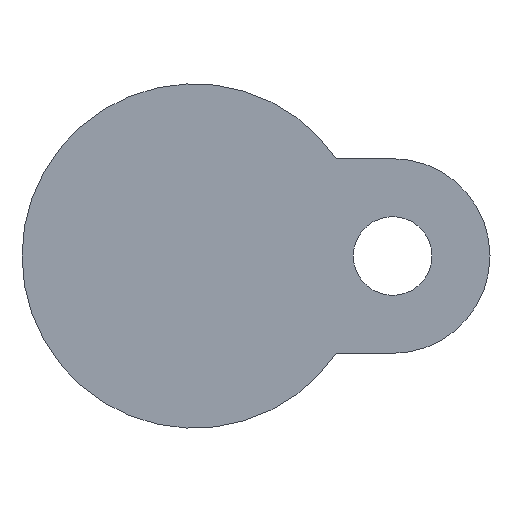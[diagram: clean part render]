
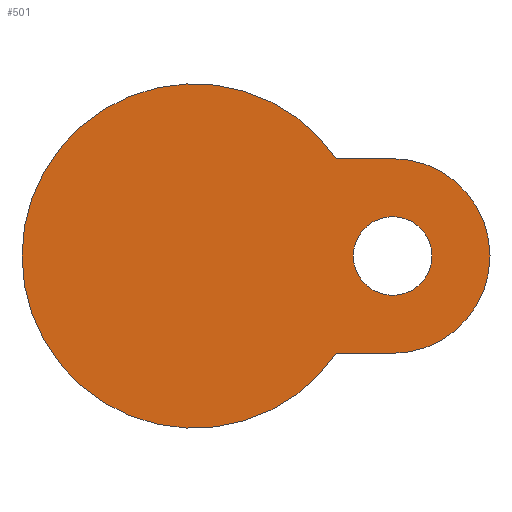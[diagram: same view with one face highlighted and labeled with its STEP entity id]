
A CAD part, front view. The second image highlights one B-rep face of the part: STEP entity #501.
In plain terms, the highlighted planar face has unit normal (0, -1, 0).
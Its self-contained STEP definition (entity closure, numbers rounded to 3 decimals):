
#72 = EDGE_CURVE ( 'NONE', #982, #842, #1020, .T. ) ;
#79 = CARTESIAN_POINT ( 'NONE',  ( 26.5, -16., -13. ) ) ;
#91 = ORIENTED_EDGE ( 'NONE', *, *, #909, .F. ) ;
#117 = CARTESIAN_POINT ( 'NONE',  ( 18.974, -16., -13. ) ) ;
#149 = DIRECTION ( 'NONE',  ( -1., 0., 0. ) ) ;
#198 = EDGE_LOOP ( 'NONE', ( #421, #291, #996, #91 ) ) ;
#222 = ORIENTED_EDGE ( 'NONE', *, *, #389, .T. ) ;
#240 = DIRECTION ( 'NONE',  ( -1., 0., 0. ) ) ;
#277 = CIRCLE ( 'NONE', #1402, 5.25 ) ;
#278 = ORIENTED_EDGE ( 'NONE', *, *, #72, .T. ) ;
#291 = ORIENTED_EDGE ( 'NONE', *, *, #1404, .F. ) ;
#318 = VERTEX_POINT ( 'NONE', #1264 ) ;
#330 = DIRECTION ( 'NONE',  ( 1., 0., 0. ) ) ;
#332 = VERTEX_POINT ( 'NONE', #1132 ) ;
#353 = CIRCLE ( 'NONE', #785, 13. ) ;
#389 = EDGE_CURVE ( 'NONE', #842, #982, #277, .T. ) ;
#407 = DIRECTION ( 'NONE',  ( 1., 0., 0. ) ) ;
#408 = FACE_OUTER_BOUND ( 'NONE', #198, .T. ) ;
#421 = ORIENTED_EDGE ( 'NONE', *, *, #803, .T. ) ;
#439 = VERTEX_POINT ( 'NONE', #79 ) ;
#468 = CARTESIAN_POINT ( 'NONE',  ( 26.5, -16., -13. ) ) ;
#501 = ADVANCED_FACE ( 'NONE', ( #1301, #408 ), #745, .T. ) ;
#512 = DIRECTION ( 'NONE',  ( 0., 1., 0. ) ) ;
#522 = DIRECTION ( 'NONE',  ( 0., 1., 0. ) ) ;
#569 = AXIS2_PLACEMENT_3D ( 'NONE', #1450, #891, #330 ) ;
#610 = DIRECTION ( 'NONE',  ( -1., 0., 0. ) ) ;
#636 = CARTESIAN_POINT ( 'NONE',  ( 23., -16., 0. ) ) ;
#704 = CIRCLE ( 'NONE', #569, 23. ) ;
#745 = PLANE ( 'NONE',  #870 ) ;
#785 = AXIS2_PLACEMENT_3D ( 'NONE', #1428, #522, #407 ) ;
#803 = EDGE_CURVE ( 'NONE', #332, #815, #704, .T. ) ;
#815 = VERTEX_POINT ( 'NONE', #117 ) ;
#842 = VERTEX_POINT ( 'NONE', #1009 ) ;
#868 = DIRECTION ( 'NONE',  ( 0., -1., 0. ) ) ;
#870 = AXIS2_PLACEMENT_3D ( 'NONE', #636, #868, #1272 ) ;
#891 = DIRECTION ( 'NONE',  ( 0., -1., 0. ) ) ;
#895 = LINE ( 'NONE', #1105, #937 ) ;
#909 = EDGE_CURVE ( 'NONE', #332, #318, #895, .T. ) ;
#937 = VECTOR ( 'NONE', #1120, 1000. ) ;
#953 = EDGE_CURVE ( 'NONE', #318, #439, #353, .T. ) ;
#956 = LINE ( 'NONE', #468, #1092 ) ;
#982 = VERTEX_POINT ( 'NONE', #1316 ) ;
#996 = ORIENTED_EDGE ( 'NONE', *, *, #953, .F. ) ;
#1009 = CARTESIAN_POINT ( 'NONE',  ( 21.25, -16., 0. ) ) ;
#1020 = CIRCLE ( 'NONE', #1375, 5.25 ) ;
#1092 = VECTOR ( 'NONE', #240, 1000. ) ;
#1105 = CARTESIAN_POINT ( 'NONE',  ( 13.5, -16., 13. ) ) ;
#1120 = DIRECTION ( 'NONE',  ( 1., 0., 0. ) ) ;
#1132 = CARTESIAN_POINT ( 'NONE',  ( 18.974, -16., 13. ) ) ;
#1150 = DIRECTION ( 'NONE',  ( 0., 1., 0. ) ) ;
#1190 = CARTESIAN_POINT ( 'NONE',  ( 26.5, -16., 0. ) ) ;
#1264 = CARTESIAN_POINT ( 'NONE',  ( 26.5, -16., 13. ) ) ;
#1272 = DIRECTION ( 'NONE',  ( 1., 0., 0. ) ) ;
#1274 = CARTESIAN_POINT ( 'NONE',  ( 26.5, -16., 0. ) ) ;
#1301 = FACE_BOUND ( 'NONE', #1313, .T. ) ;
#1313 = EDGE_LOOP ( 'NONE', ( #222, #278 ) ) ;
#1316 = CARTESIAN_POINT ( 'NONE',  ( 31.75, -16., 0. ) ) ;
#1375 = AXIS2_PLACEMENT_3D ( 'NONE', #1274, #1150, #149 ) ;
#1402 = AXIS2_PLACEMENT_3D ( 'NONE', #1190, #512, #610 ) ;
#1404 = EDGE_CURVE ( 'NONE', #439, #815, #956, .T. ) ;
#1428 = CARTESIAN_POINT ( 'NONE',  ( 26.5, -16., 0. ) ) ;
#1450 = CARTESIAN_POINT ( 'NONE',  ( 0., -16., 0. ) ) ;
